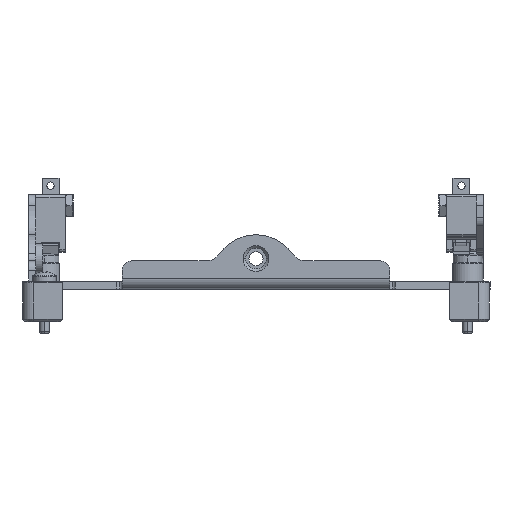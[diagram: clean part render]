
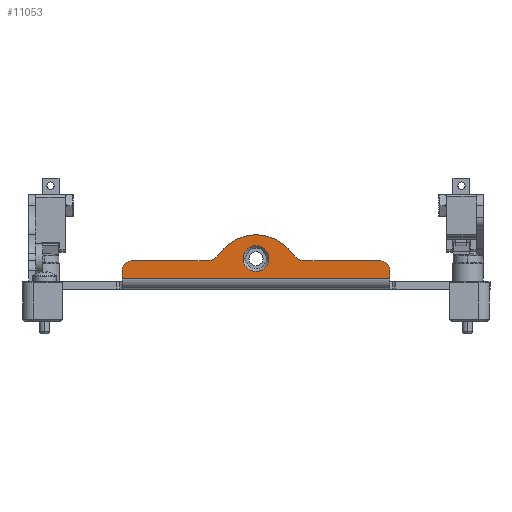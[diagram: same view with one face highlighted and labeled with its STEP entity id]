
A CAD part, front view. The second image highlights one B-rep face of the part: STEP entity #11053.
In plain terms, the highlighted planar face has unit normal (0, -1, 0).
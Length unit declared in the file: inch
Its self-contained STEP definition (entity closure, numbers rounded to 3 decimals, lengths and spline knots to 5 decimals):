
#47 = DIRECTION ( 'NONE',  ( 0., -1., 0. ) ) ;
#74 = DIRECTION ( 'NONE',  ( 0., 0., 1. ) ) ;
#233 = CARTESIAN_POINT ( 'NONE',  ( 1.046, -1.9135, 0.09622 ) ) ;
#291 = EDGE_CURVE ( 'NONE', #9849, #6335, #13201, .T. ) ;
#477 = EDGE_CURVE ( 'NONE', #6335, #13713, #20955, .T. ) ;
#1211 = DIRECTION ( 'NONE',  ( 0., 0., 1. ) ) ;
#1862 = CARTESIAN_POINT ( 'NONE',  ( -0.42028, -1.9135, 0.31307 ) ) ;
#1906 = DIRECTION ( 'NONE',  ( 0., -1., 0. ) ) ;
#1942 = CARTESIAN_POINT ( 'NONE',  ( 0., -1.9135, 0.39591 ) ) ;
#2010 = AXIS2_PLACEMENT_3D ( 'NONE', #16735, #10666, #1211 ) ;
#2037 = CARTESIAN_POINT ( 'NONE',  ( -1.046, -1.9135, 0.17622 ) ) ;
#2536 = CARTESIAN_POINT ( 'NONE',  ( 0.108, -1.9135, 0.19591 ) ) ;
#2793 = AXIS2_PLACEMENT_3D ( 'NONE', #1862, #13523, #25655 ) ;
#2827 = DIRECTION ( 'NONE',  ( -1., 0., 0. ) ) ;
#3230 = DIRECTION ( 'NONE',  ( 0., 1., 0. ) ) ;
#3314 = CIRCLE ( 'NONE', #7224, 0.108 ) ;
#3450 = DIRECTION ( 'NONE',  ( 0., 1., 0. ) ) ;
#3490 = ORIENTED_EDGE ( 'NONE', *, *, #18910, .T. ) ;
#3846 = ORIENTED_EDGE ( 'NONE', *, *, #12737, .T. ) ;
#3935 = LINE ( 'NONE', #16737, #16163 ) ;
#4640 = DIRECTION ( 'NONE',  ( 0., 0., 1. ) ) ;
#4818 = LINE ( 'NONE', #22501, #17746 ) ;
#4979 = PLANE ( 'NONE',  #2010 ) ;
#5006 = ORIENTED_EDGE ( 'NONE', *, *, #11453, .T. ) ;
#5070 = EDGE_CURVE ( 'NONE', #6680, #8265, #3935, .T. ) ;
#5182 = CARTESIAN_POINT ( 'NONE',  ( -0.30791, -1.9135, 0.23496 ) ) ;
#5255 = VERTEX_POINT ( 'NONE', #11233 ) ;
#5400 = LINE ( 'NONE', #10173, #5640 ) ;
#5640 = VECTOR ( 'NONE', #22211, 39.37008 ) ;
#5643 = CARTESIAN_POINT ( 'NONE',  ( -0.108, -1.9135, 0.19591 ) ) ;
#6024 = ORIENTED_EDGE ( 'NONE', *, *, #12121, .T. ) ;
#6052 = CIRCLE ( 'NONE', #19368, 0.08 ) ;
#6335 = VERTEX_POINT ( 'NONE', #1942 ) ;
#6680 = VERTEX_POINT ( 'NONE', #25466 ) ;
#7224 = AXIS2_PLACEMENT_3D ( 'NONE', #15157, #3450, #17165 ) ;
#7231 = ORIENTED_EDGE ( 'NONE', *, *, #477, .T. ) ;
#7305 = EDGE_CURVE ( 'NONE', #24107, #12973, #17707, .T. ) ;
#8096 = FACE_OUTER_BOUND ( 'NONE', #9395, .T. ) ;
#8265 = VERTEX_POINT ( 'NONE', #12092 ) ;
#8305 = FACE_BOUND ( 'NONE', #14670, .T. ) ;
#8419 = CARTESIAN_POINT ( 'NONE',  ( 0.30791, -1.9135, 0.23496 ) ) ;
#8623 = DIRECTION ( 'NONE',  ( 0., 1., 0. ) ) ;
#8710 = LINE ( 'NONE', #16501, #18328 ) ;
#9395 = EDGE_LOOP ( 'NONE', ( #19906, #3490, #11686, #3846, #6024, #25776, #13761, #23656, #5006, #24965, #7231 ) ) ;
#9849 = VERTEX_POINT ( 'NONE', #8419 ) ;
#10101 = ORIENTED_EDGE ( 'NONE', *, *, #22928, .T. ) ;
#10173 = CARTESIAN_POINT ( 'NONE',  ( 1.1711, -1.9135, 0.17622 ) ) ;
#10396 = CARTESIAN_POINT ( 'NONE',  ( 0.42028, -1.9135, 0.31307 ) ) ;
#10511 = CARTESIAN_POINT ( 'NONE',  ( 1.126, -1.9135, 0.09622 ) ) ;
#10639 = CIRCLE ( 'NONE', #24236, 0.08 ) ;
#10666 = DIRECTION ( 'NONE',  ( 0., 1., 0. ) ) ;
#10712 = CARTESIAN_POINT ( 'NONE',  ( 0., -1.9135, 0.02091 ) ) ;
#11053 = ADVANCED_FACE ( 'NONE', ( #8305, #8096 ), #4979, .F. ) ;
#11233 = CARTESIAN_POINT ( 'NONE',  ( -1.126, -1.9135, 0.03 ) ) ;
#11453 = EDGE_CURVE ( 'NONE', #8265, #9849, #14733, .T. ) ;
#11686 = ORIENTED_EDGE ( 'NONE', *, *, #22475, .T. ) ;
#11806 = CIRCLE ( 'NONE', #2793, 0.13685 ) ;
#12092 = CARTESIAN_POINT ( 'NONE',  ( 0.42028, -1.9135, 0.17622 ) ) ;
#12121 = EDGE_CURVE ( 'NONE', #5255, #24254, #4818, .T. ) ;
#12203 = DIRECTION ( 'NONE',  ( 0., 0., -1. ) ) ;
#12458 = DIRECTION ( 'NONE',  ( 1., 0., 0. ) ) ;
#12737 = EDGE_CURVE ( 'NONE', #16329, #5255, #8710, .T. ) ;
#12746 = CARTESIAN_POINT ( 'NONE',  ( 1.126, -1.9135, 0.03 ) ) ;
#12910 = DIRECTION ( 'NONE',  ( 0., 0., 1. ) ) ;
#12973 = VERTEX_POINT ( 'NONE', #5643 ) ;
#13129 = CARTESIAN_POINT ( 'NONE',  ( -0.42028, -1.9135, 0.17622 ) ) ;
#13201 = CIRCLE ( 'NONE', #17770, 0.375 ) ;
#13523 = DIRECTION ( 'NONE',  ( 0., 1., 0. ) ) ;
#13555 = CARTESIAN_POINT ( 'NONE',  ( 0., -1.9135, 0.02091 ) ) ;
#13713 = VERTEX_POINT ( 'NONE', #5182 ) ;
#13761 = ORIENTED_EDGE ( 'NONE', *, *, #15107, .T. ) ;
#14670 = EDGE_LOOP ( 'NONE', ( #10101, #15164 ) ) ;
#14733 = CIRCLE ( 'NONE', #16759, 0.13685 ) ;
#14994 = DIRECTION ( 'NONE',  ( 0., 0., 1. ) ) ;
#15107 = EDGE_CURVE ( 'NONE', #21871, #6680, #10639, .T. ) ;
#15157 = CARTESIAN_POINT ( 'NONE',  ( 0., -1.9135, 0.19591 ) ) ;
#15164 = ORIENTED_EDGE ( 'NONE', *, *, #7305, .T. ) ;
#15380 = DIRECTION ( 'NONE',  ( 0., -1., 0. ) ) ;
#16163 = VECTOR ( 'NONE', #2827, 39.37008 ) ;
#16329 = VERTEX_POINT ( 'NONE', #20244 ) ;
#16501 = CARTESIAN_POINT ( 'NONE',  ( -1.126, -1.9135, 0.39276 ) ) ;
#16584 = CARTESIAN_POINT ( 'NONE',  ( 0., -1.9135, 0.19591 ) ) ;
#16735 = CARTESIAN_POINT ( 'NONE',  ( 1.1711, -1.9135, 0.39276 ) ) ;
#16737 = CARTESIAN_POINT ( 'NONE',  ( 1.1711, -1.9135, 0.17622 ) ) ;
#16759 = AXIS2_PLACEMENT_3D ( 'NONE', #10396, #8623, #20593 ) ;
#16851 = EDGE_CURVE ( 'NONE', #21871, #24254, #21591, .T. ) ;
#17165 = DIRECTION ( 'NONE',  ( 0., 0., 1. ) ) ;
#17265 = DIRECTION ( 'NONE',  ( 0., 0., -1. ) ) ;
#17446 = CARTESIAN_POINT ( 'NONE',  ( 1.126, -1.9135, 0.39276 ) ) ;
#17707 = CIRCLE ( 'NONE', #24569, 0.108 ) ;
#17746 = VECTOR ( 'NONE', #12458, 39.37008 ) ;
#17770 = AXIS2_PLACEMENT_3D ( 'NONE', #10712, #22797, #20755 ) ;
#18328 = VECTOR ( 'NONE', #12203, 39.37008 ) ;
#18910 = EDGE_CURVE ( 'NONE', #25527, #25847, #5400, .T. ) ;
#19368 = AXIS2_PLACEMENT_3D ( 'NONE', #23374, #15380, #12910 ) ;
#19906 = ORIENTED_EDGE ( 'NONE', *, *, #24935, .T. ) ;
#20244 = CARTESIAN_POINT ( 'NONE',  ( -1.126, -1.9135, 0.09622 ) ) ;
#20593 = DIRECTION ( 'NONE',  ( 0., 0., 1. ) ) ;
#20755 = DIRECTION ( 'NONE',  ( 0., 0., 1. ) ) ;
#20955 = CIRCLE ( 'NONE', #24039, 0.375 ) ;
#21361 = VECTOR ( 'NONE', #17265, 39.37008 ) ;
#21591 = LINE ( 'NONE', #17446, #21361 ) ;
#21871 = VERTEX_POINT ( 'NONE', #10511 ) ;
#22211 = DIRECTION ( 'NONE',  ( -1., 0., 0. ) ) ;
#22475 = EDGE_CURVE ( 'NONE', #25847, #16329, #6052, .T. ) ;
#22501 = CARTESIAN_POINT ( 'NONE',  ( -1.126, -1.9135, 0.03 ) ) ;
#22797 = DIRECTION ( 'NONE',  ( 0., -1., 0. ) ) ;
#22928 = EDGE_CURVE ( 'NONE', #12973, #24107, #3314, .T. ) ;
#23374 = CARTESIAN_POINT ( 'NONE',  ( -1.046, -1.9135, 0.09622 ) ) ;
#23656 = ORIENTED_EDGE ( 'NONE', *, *, #5070, .T. ) ;
#24039 = AXIS2_PLACEMENT_3D ( 'NONE', #13555, #1906, #14994 ) ;
#24107 = VERTEX_POINT ( 'NONE', #2536 ) ;
#24236 = AXIS2_PLACEMENT_3D ( 'NONE', #233, #47, #74 ) ;
#24254 = VERTEX_POINT ( 'NONE', #12746 ) ;
#24569 = AXIS2_PLACEMENT_3D ( 'NONE', #16584, #3230, #4640 ) ;
#24935 = EDGE_CURVE ( 'NONE', #13713, #25527, #11806, .T. ) ;
#24965 = ORIENTED_EDGE ( 'NONE', *, *, #291, .T. ) ;
#25466 = CARTESIAN_POINT ( 'NONE',  ( 1.046, -1.9135, 0.17622 ) ) ;
#25527 = VERTEX_POINT ( 'NONE', #13129 ) ;
#25655 = DIRECTION ( 'NONE',  ( 0., 0., 1. ) ) ;
#25776 = ORIENTED_EDGE ( 'NONE', *, *, #16851, .F. ) ;
#25847 = VERTEX_POINT ( 'NONE', #2037 ) ;
